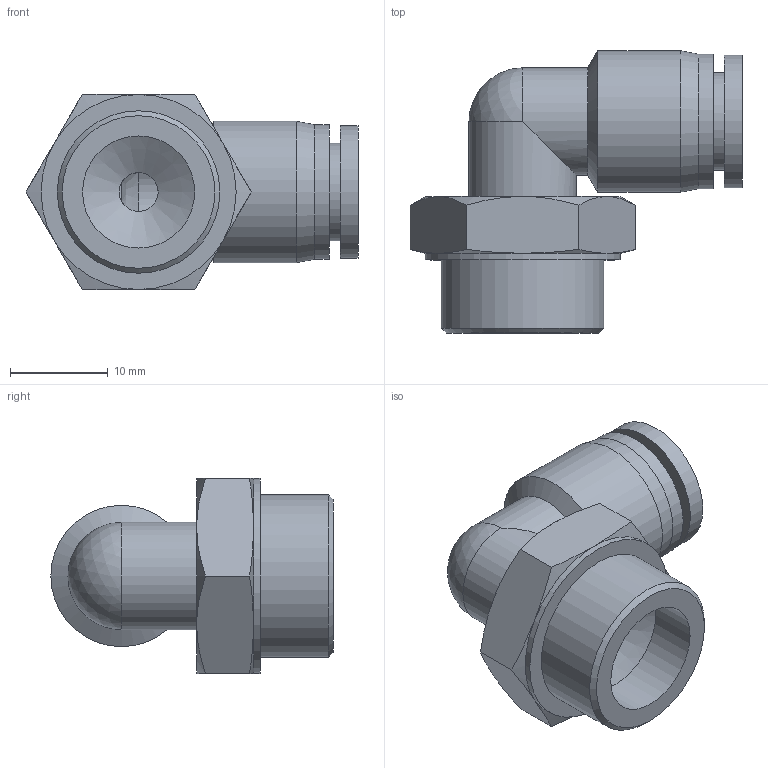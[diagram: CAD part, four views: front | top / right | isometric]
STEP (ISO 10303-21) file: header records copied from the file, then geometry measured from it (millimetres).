
FILE_DESCRIPTION((''),'2;1');
FILE_NAME('S:\UTecnico\ArchivioUT\Speciali Clienti\Speciali KONFIT\Plastica\RP\RP 72\RP723808.stp','2012-05-18T11:18:29',('UT5'),(''),'Autodesk Inventor 2012','Autodesk Inventor 2012','');
FILE_SCHEMA(('AUTOMOTIVE_DESIGN { 1 0 10303 214 1 1 1 1 }'));
Length unit declared in the file: millimetre
Products named in the file (1): RP723808
Bounding box: 34.05 x 28.95 x 20 mm (x, y, z)
Volume: 5629 mm3; surface area: 3762.8 mm2
Topology: 1 solids, 1 shells, 41 faces, 88 edges, 53 vertices
Faces by surface type: cone 17, plane 12, cylinder 11, sphere 1
Full cylindrical faces by diameter (mm): 4 x1, 8 x1, 10 x1, 11 x2, 11.5 x1, 13.6 x1, 13.8 x1, 14.5 x1, 16.66 x1, 20 x1
Entity records: 1021 total; most frequent: CARTESIAN_POINT 223, DIRECTION 164, ORIENTED_EDGE 136, AXIS2_PLACEMENT_3D 79, EDGE_CURVE 68, EDGE_LOOP 62, VERTEX_POINT 48, FACE_OUTER_BOUND 41
